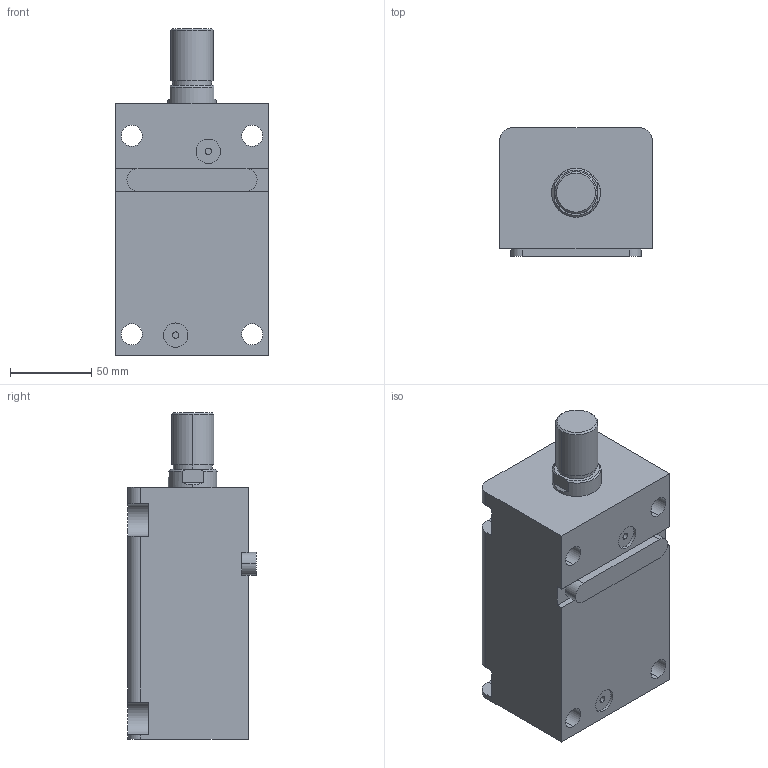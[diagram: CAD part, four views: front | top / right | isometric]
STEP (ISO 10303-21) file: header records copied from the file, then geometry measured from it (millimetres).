
FILE_DESCRIPTION (( 'STEP AP203' ), '1' );
FILE_NAME ('HTB-LAM50-95W.STEP', '2023-03-20T01:14:35', ( '微软用户' ), ( '微软中国' ), 'SwSTEP 2.0', 'SolidWorks 2012', '' );
FILE_SCHEMA (( 'CONFIG_CONTROL_DESIGN' ));
Length unit declared in the file: millimetre
Products named in the file (4): HTB-LAM50-95W活塞杆; HTB-LAM50-95掛极; HTB-LAM50-95W; HTB-LWM50-瑩
Assembly tree (3 placements, depth 2):
  HTB-LAM50-95W
    HTB-LAM50-95掛极
    HTB-LAM50-95W活塞杆
    HTB-LWM50-瑩
Bounding box: 94 x 79 x 201 mm (x, y, z)
Volume: 933836.9 mm3; surface area: 126511.6 mm2
Topology: 3 solids, 3 shells, 90 faces, 219 edges, 144 vertices
Faces by surface type: cylinder 41, plane 41, cone 4, torus 4
Entity records: 3107 total; most frequent: DIRECTION 497, CARTESIAN_POINT 487, ORIENTED_EDGE 438, EDGE_CURVE 219, AXIS2_PLACEMENT_3D 190, VERTEX_POINT 144, LINE 117, VECTOR 117
